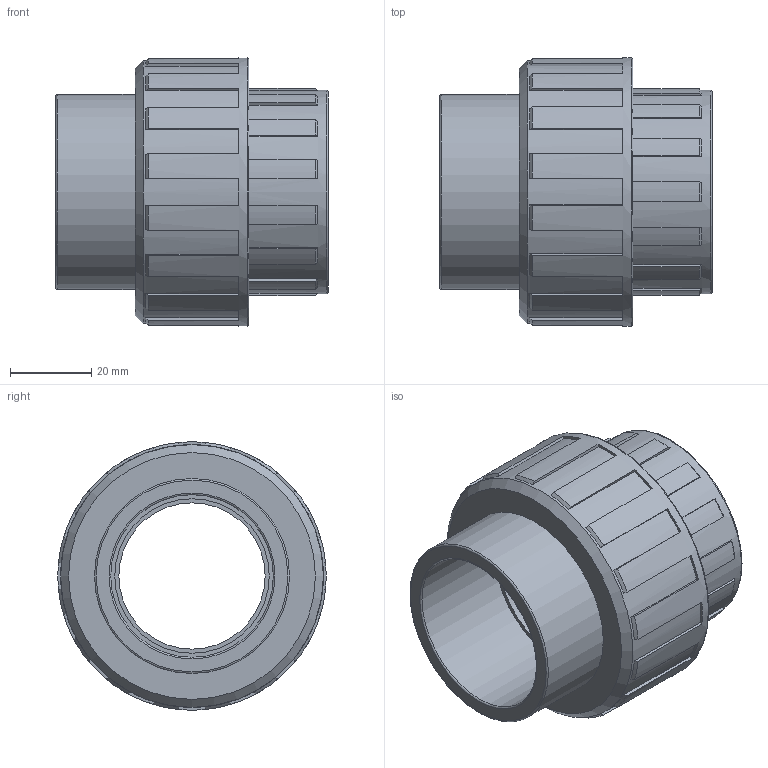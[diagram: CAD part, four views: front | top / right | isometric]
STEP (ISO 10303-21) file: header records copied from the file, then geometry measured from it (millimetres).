
FILE_DESCRIPTION(/* description */ ('PLASSON UNION+O RING-CEM PVC 40'),/* implementation_level */ '2;1');
FILE_NAME(/* name */ 'C:\Dropbox\KIMPROJECTS-Inventor\99-16-3568-Processing\PVC Catalog 2017\050800\050800040.ipt.stp',/* time_stamp */ '2017-12-07T15:57:47+02:00',/* author */ ('Кирилл'),/* organization */ (''),/* preprocessor_version */ 'ST-DEVELOPER v15.6',/* originating_system */ 'Autodesk Inventor 2015',/* authorisation */ '');
FILE_SCHEMA (('AUTOMOTIVE_DESIGN { 1 0 10303 214 3 1 1 }'));
Length unit declared in the file: millimetre
Products named in the file (1): 050800040
Bounding box: 67 x 66 x 66 mm (x, y, z)
Volume: 86880.9 mm3; surface area: 25142.7 mm2
Topology: 1 solids, 1 shells, 141 faces, 396 edges, 262 vertices
Faces by surface type: plane 83, cone 31, cylinder 22, torus 5
Full cylindrical faces by diameter (mm): 36 x1, 38 x1, 40 x2, 48 x1, 50 x1, 64.68 x1, 66 x1
Entity records: 4512 total; most frequent: DIRECTION 802, CARTESIAN_POINT 780, ORIENTED_EDGE 758, EDGE_CURVE 379, AXIS2_PLACEMENT_3D 281, VERTEX_POINT 259, LINE 240, VECTOR 240
